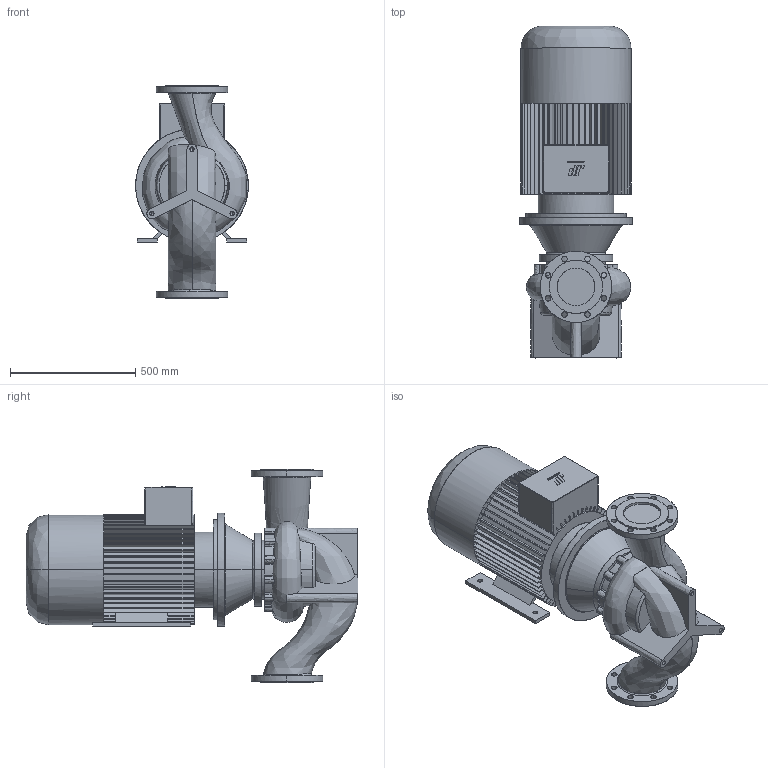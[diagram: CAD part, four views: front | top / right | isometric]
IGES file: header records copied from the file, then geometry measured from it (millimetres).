
Start section: CombiLine
Global section: file name: CLB_150-250_IEC225S_ND10.igs; native system:  By UGS Corp.; preprocessor: XPlus GENERIC/IGES 3.0; author: Stageplaats; organization: Johnson Pump Water B.V.; date: 20070718.085313; units: millimetre
Bounding box: 450 x 1323.5 x 850 mm (x, y, z)
Surface area: 3785722.5 mm2 (no closed solid volume)
Topology: 0 solids, 0 shells, 622 faces, 3764 edges, 3758 vertices
Faces by surface type: bspline 622
